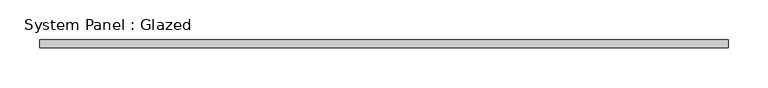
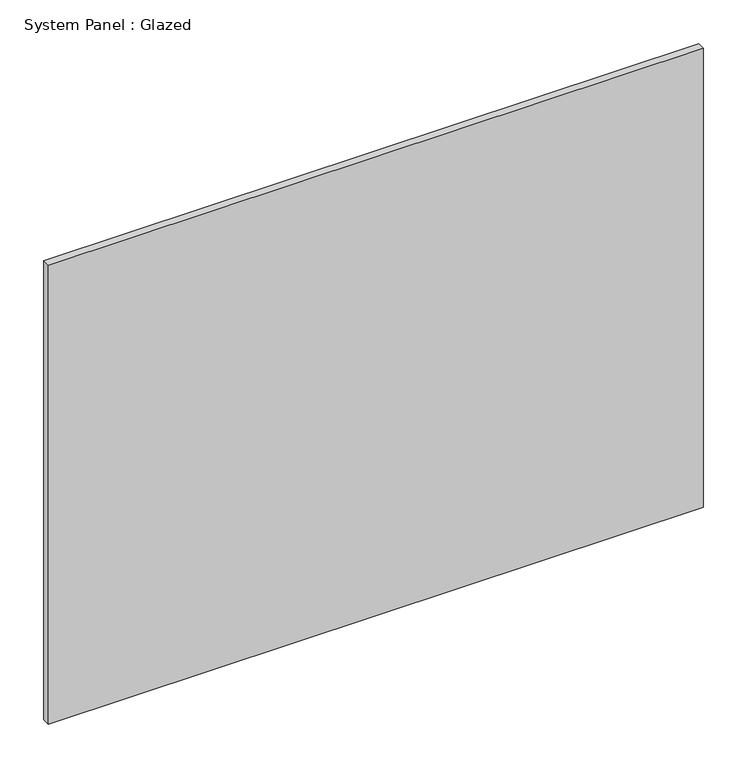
"""IFC4 building model written with IfcOpenShell, lengths in millimetres: plate geometry, System Panel : Glazed."""

from ifc_helpers import new_model, si_unit, origin, origin_with_axes, place, context, project, spatial, polyline, outline, extrude, source, transform, mapped, element, save


def system_panel_glazed_9cce16fc(model_context):
    return source(origin(), model_context, "Body", "SweptSolid", [
        extrude(outline(polyline([(431.6666667, -5.0), (-431.6666667, -5.0), (-431.6666667, 5.0), (431.6666667, 5.0), (431.6666667, -5.0)])), origin_with_axes(), (0.0, 0.0, 1.0), 640.0),
    ])


if __name__ == "__main__":
    model = new_model("IFC4")
    model_context = context("Model", 3, world=origin())
    ifc_project = project(units=[si_unit("LENGTHUNIT", "METRE", prefix="MILLI")], contexts=[model_context])
    site = spatial("IfcSite", under=ifc_project)
    building = spatial("IfcBuilding", under=site)
    placement = place(None, origin())
    system_panel_glazed_shape = system_panel_glazed_9cce16fc(model_context)
    element("IfcPlate", 1, ObjectType="System Panel : Glazed", at=placement, inside=building, context=model_context, shape_type="MappedRepresentation", body=[
        mapped(system_panel_glazed_shape, transform((0.0, 0.0, 0.0), x_axis=(1.0, 0.0, 0.0), y_axis=(0.0, 1.0, 0.0), z_axis=(0.0, 0.0, 1.0))),
    ])
    save(model, "model.ifc")
